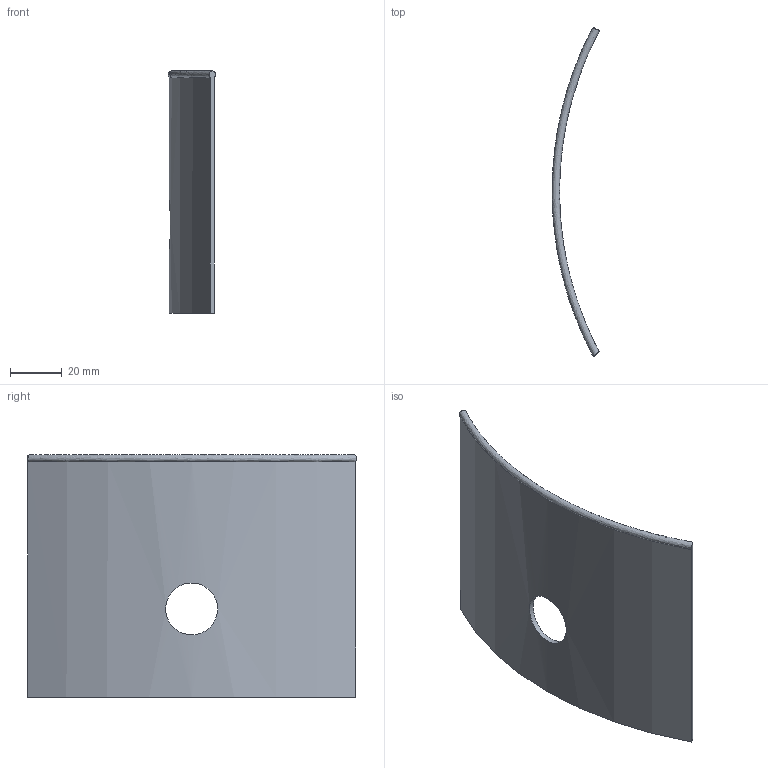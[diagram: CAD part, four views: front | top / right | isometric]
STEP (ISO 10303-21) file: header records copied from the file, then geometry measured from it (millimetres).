
FILE_DESCRIPTION(/* description */ ('STEP AP242','CAx-IF Rec.Pracs.---Representation and Presentation of Product Manufacturing Information (PMI)---4.0---2014-10-13','CAx-IF Rec.Pracs.---3D Tessellated Geometry---0.4---2014-09-14','2;1'),/* implementation_level */ '2;1');
FILE_NAME(/* name */ '673f94c69d1dca6a13b61b73',/* time_stamp */ '2024-11-21T20:15:03Z',/* author */ (''),/* organization */ (''),/* preprocessor_version */ 'ST-DEVELOPER v20',/* originating_system */ 'ONSHAPE BY PTC INC, 1.189',/* authorisation */ ' ');
FILE_SCHEMA (('AP242_MANAGED_MODEL_BASED_3D_ENGINEERING_MIM_LF { 1 0 10303 442 1 1 4 }'));
Length unit declared in the file: metre
Products named in the file (1): FX-120i Sheet
Bounding box: 18.43 x 126.8 x 93.4 mm (x, y, z)
Volume: 23872.7 mm3; surface area: 24737.8 mm2
Topology: 1 solids, 1 shells, 10 faces, 22 edges, 14 vertices
Faces by surface type: plane 6, cylinder 3, bspline 1
Full cylindrical faces by diameter (mm): 20 x1
Entity records: 399 total; most frequent: CARTESIAN_POINT 156, DIRECTION 46, ORIENTED_EDGE 42, EDGE_CURVE 21, AXIS2_PLACEMENT_3D 18, VERTEX_POINT 14, EDGE_LOOP 13, FACE_BOUND 13
